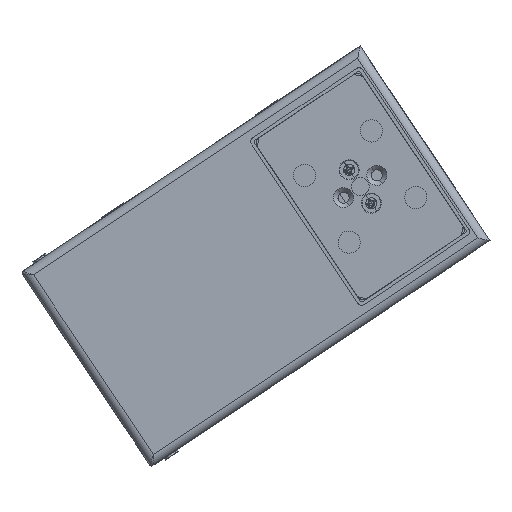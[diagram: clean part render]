
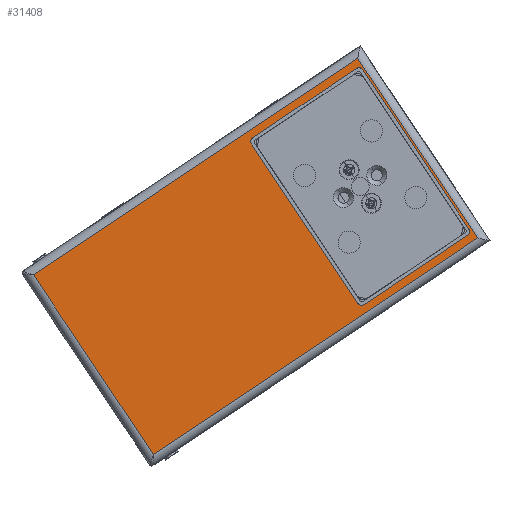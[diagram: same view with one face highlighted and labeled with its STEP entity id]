
A CAD part, front view. The second image highlights one B-rep face of the part: STEP entity #31408.
In plain terms, the highlighted planar face has unit normal (0, -1, 0) as drawn and (0, 1, 0) by its records, which use the part's own axes.
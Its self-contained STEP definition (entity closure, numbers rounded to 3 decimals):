
#470 = EDGE_CURVE ( 'NONE', #30691, #35613, #21853, .T. ) ;
#672 = EDGE_CURVE ( 'NONE', #7520, #30691, #41384, .T. ) ;
#1022 = AXIS2_PLACEMENT_3D ( 'NONE', #1963, #25503, #5372 ) ;
#1034 = DIRECTION ( 'NONE',  ( 1., 0., 0. ) ) ;
#1963 = CARTESIAN_POINT ( 'NONE',  ( 24., 3., -39. ) ) ;
#2057 = CARTESIAN_POINT ( 'NONE',  ( -24., 3., -39. ) ) ;
#2679 = LINE ( 'NONE', #43416, #37429 ) ;
#3037 = DIRECTION ( 'NONE',  ( 0., 0., 1. ) ) ;
#3041 = VERTEX_POINT ( 'NONE', #8174 ) ;
#3062 = ORIENTED_EDGE ( 'NONE', *, *, #41367, .T. ) ;
#3952 = VECTOR ( 'NONE', #1034, 1000. ) ;
#4058 = ORIENTED_EDGE ( 'NONE', *, *, #36698, .T. ) ;
#4241 = DIRECTION ( 'NONE',  ( 0., 0., -1. ) ) ;
#5372 = DIRECTION ( 'NONE',  ( 0., 0., 1. ) ) ;
#5461 = DIRECTION ( 'NONE',  ( 0., 0., 1. ) ) ;
#6108 = ORIENTED_EDGE ( 'NONE', *, *, #10123, .T. ) ;
#6904 = CARTESIAN_POINT ( 'NONE',  ( 144., 3., 48.5 ) ) ;
#6959 = CARTESIAN_POINT ( 'NONE',  ( 24., 3., 44.5 ) ) ;
#7300 = DIRECTION ( 'NONE',  ( 0., -1., 0. ) ) ;
#7382 = VERTEX_POINT ( 'NONE', #6959 ) ;
#7520 = VERTEX_POINT ( 'NONE', #41450 ) ;
#7970 = VERTEX_POINT ( 'NONE', #33927 ) ;
#8174 = CARTESIAN_POINT ( 'NONE',  ( -31., 3., 48.5 ) ) ;
#8432 = DIRECTION ( 'NONE',  ( 0., -1., 0. ) ) ;
#8844 = CARTESIAN_POINT ( 'NONE',  ( -24., 3., -44.5 ) ) ;
#8944 = EDGE_LOOP ( 'NONE', ( #34181, #43633, #32028, #17456, #18675, #25450, #4058, #6108 ) ) ;
#9481 = VERTEX_POINT ( 'NONE', #12585 ) ;
#9569 = CARTESIAN_POINT ( 'NONE',  ( 29.5, 3., 52.5 ) ) ;
#10123 = EDGE_CURVE ( 'NONE', #15323, #40916, #41802, .T. ) ;
#10853 = CARTESIAN_POINT ( 'NONE',  ( -31., 3., -48.5 ) ) ;
#11553 = FACE_OUTER_BOUND ( 'NONE', #41628, .T. ) ;
#11583 = EDGE_CURVE ( 'NONE', #40916, #7382, #38501, .T. ) ;
#12518 = CARTESIAN_POINT ( 'NONE',  ( 24., 3., -44.5 ) ) ;
#12585 = CARTESIAN_POINT ( 'NONE',  ( -24., 3., 44.5 ) ) ;
#12935 = CARTESIAN_POINT ( 'NONE',  ( -35., 3., -48.5 ) ) ;
#12981 = DIRECTION ( 'NONE',  ( 0., 0., 1. ) ) ;
#13208 = CARTESIAN_POINT ( 'NONE',  ( 148., 3., 52.5 ) ) ;
#13714 = VERTEX_POINT ( 'NONE', #6904 ) ;
#13842 = VERTEX_POINT ( 'NONE', #10853 ) ;
#14238 = CARTESIAN_POINT ( 'NONE',  ( 144., 3., -52.5 ) ) ;
#14330 = VECTOR ( 'NONE', #33237, 1000. ) ;
#15323 = VERTEX_POINT ( 'NONE', #42872 ) ;
#15385 = LINE ( 'NONE', #14238, #23273 ) ;
#15664 = EDGE_CURVE ( 'NONE', #21699, #13842, #23264, .T. ) ;
#16363 = VECTOR ( 'NONE', #4241, 1000. ) ;
#16561 = DIRECTION ( 'NONE',  ( 0., 0., 1. ) ) ;
#17456 = ORIENTED_EDGE ( 'NONE', *, *, #39746, .T. ) ;
#18675 = ORIENTED_EDGE ( 'NONE', *, *, #672, .T. ) ;
#18902 = AXIS2_PLACEMENT_3D ( 'NONE', #2057, #25582, #5461 ) ;
#19074 = ORIENTED_EDGE ( 'NONE', *, *, #15664, .T. ) ;
#19546 = CARTESIAN_POINT ( 'NONE',  ( 148., 3., 44.5 ) ) ;
#20696 = LINE ( 'NONE', #37927, #37603 ) ;
#21080 = DIRECTION ( 'NONE',  ( 1., 0., 0. ) ) ;
#21699 = VERTEX_POINT ( 'NONE', #39119 ) ;
#21853 = LINE ( 'NONE', #34764, #3952 ) ;
#23264 = LINE ( 'NONE', #12935, #14330 ) ;
#23273 = VECTOR ( 'NONE', #34457, 1000. ) ;
#23797 = VECTOR ( 'NONE', #12981, 1000. ) ;
#24388 = CARTESIAN_POINT ( 'NONE',  ( -29.5, 3., 52.5 ) ) ;
#24944 = ORIENTED_EDGE ( 'NONE', *, *, #25666, .T. ) ;
#25062 = CIRCLE ( 'NONE', #1022, 5.5 ) ;
#25450 = ORIENTED_EDGE ( 'NONE', *, *, #470, .T. ) ;
#25503 = DIRECTION ( 'NONE',  ( 0., -1., 0. ) ) ;
#25582 = DIRECTION ( 'NONE',  ( 0., -1., 0. ) ) ;
#25666 = EDGE_CURVE ( 'NONE', #3041, #13714, #20696, .T. ) ;
#26589 = PLANE ( 'NONE',  #40637 ) ;
#27474 = CARTESIAN_POINT ( 'NONE',  ( 24., 3., 39. ) ) ;
#28406 = FACE_BOUND ( 'NONE', #8944, .T. ) ;
#28620 = CARTESIAN_POINT ( 'NONE',  ( -24., 3., 39. ) ) ;
#30094 = AXIS2_PLACEMENT_3D ( 'NONE', #27474, #7300, #30843 ) ;
#30691 = VERTEX_POINT ( 'NONE', #8844 ) ;
#30843 = DIRECTION ( 'NONE',  ( 0., 0., 1. ) ) ;
#31408 = ADVANCED_FACE ( 'NONE', ( #28406, #11553 ), #26589, .T. ) ;
#32001 = DIRECTION ( 'NONE',  ( 0., 0., 1. ) ) ;
#32028 = ORIENTED_EDGE ( 'NONE', *, *, #40480, .T. ) ;
#32133 = VECTOR ( 'NONE', #43154, 1000. ) ;
#33237 = DIRECTION ( 'NONE',  ( -1., 0., 0. ) ) ;
#33927 = CARTESIAN_POINT ( 'NONE',  ( -29.5, 3., 39. ) ) ;
#34181 = ORIENTED_EDGE ( 'NONE', *, *, #11583, .T. ) ;
#34300 = LINE ( 'NONE', #24388, #16363 ) ;
#34457 = DIRECTION ( 'NONE',  ( 0., 0., -1. ) ) ;
#34484 = EDGE_CURVE ( 'NONE', #7382, #9481, #40062, .T. ) ;
#34764 = CARTESIAN_POINT ( 'NONE',  ( 148., 3., -44.5 ) ) ;
#34768 = CIRCLE ( 'NONE', #41376, 5.5 ) ;
#35613 = VERTEX_POINT ( 'NONE', #12518 ) ;
#36032 = ORIENTED_EDGE ( 'NONE', *, *, #40092, .T. ) ;
#36698 = EDGE_CURVE ( 'NONE', #35613, #15323, #25062, .T. ) ;
#36776 = DIRECTION ( 'NONE',  ( 0., 1., 0. ) ) ;
#37429 = VECTOR ( 'NONE', #3037, 1000. ) ;
#37603 = VECTOR ( 'NONE', #21080, 1000. ) ;
#37927 = CARTESIAN_POINT ( 'NONE',  ( 148., 3., 48.5 ) ) ;
#38033 = CARTESIAN_POINT ( 'NONE',  ( 29.5, 3., 39. ) ) ;
#38501 = CIRCLE ( 'NONE', #30094, 5.5 ) ;
#39119 = CARTESIAN_POINT ( 'NONE',  ( 144., 3., -48.5 ) ) ;
#39746 = EDGE_CURVE ( 'NONE', #7970, #7520, #34300, .T. ) ;
#40062 = LINE ( 'NONE', #19546, #32133 ) ;
#40092 = EDGE_CURVE ( 'NONE', #13842, #3041, #2679, .T. ) ;
#40480 = EDGE_CURVE ( 'NONE', #9481, #7970, #34768, .T. ) ;
#40637 = AXIS2_PLACEMENT_3D ( 'NONE', #13208, #36776, #16561 ) ;
#40916 = VERTEX_POINT ( 'NONE', #38033 ) ;
#41367 = EDGE_CURVE ( 'NONE', #13714, #21699, #15385, .T. ) ;
#41376 = AXIS2_PLACEMENT_3D ( 'NONE', #28620, #8432, #32001 ) ;
#41384 = CIRCLE ( 'NONE', #18902, 5.5 ) ;
#41450 = CARTESIAN_POINT ( 'NONE',  ( -29.5, 3., -39. ) ) ;
#41628 = EDGE_LOOP ( 'NONE', ( #19074, #36032, #24944, #3062 ) ) ;
#41802 = LINE ( 'NONE', #9569, #23797 ) ;
#42872 = CARTESIAN_POINT ( 'NONE',  ( 29.5, 3., -39. ) ) ;
#43154 = DIRECTION ( 'NONE',  ( -1., 0., 0. ) ) ;
#43416 = CARTESIAN_POINT ( 'NONE',  ( -31., 3., 52.5 ) ) ;
#43633 = ORIENTED_EDGE ( 'NONE', *, *, #34484, .T. ) ;
